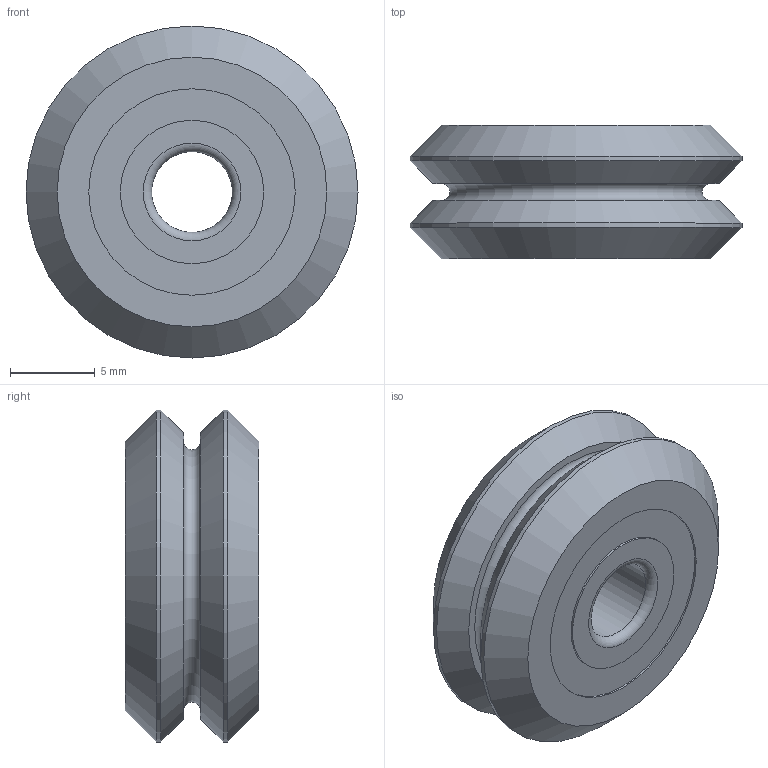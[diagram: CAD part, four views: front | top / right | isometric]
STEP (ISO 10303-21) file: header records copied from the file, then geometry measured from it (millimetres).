
FILE_DESCRIPTION(('STEP AP203'),'1');
FILE_NAME('W1SSX.stp','2020-09-30T01:57:14',(' '),(' '),'Spatial InterOp 3D',' ',' ');
FILE_SCHEMA(('CONFIG_CONTROL_DESIGN'));
Length unit declared in the file: millimetre
Products named in the file (1): W1SSX
Bounding box: 19.58 x 7.87 x 19.58 mm (x, y, z)
Volume: 1792.9 mm3; surface area: 1153.7 mm2
Topology: 1 solids, 1 shells, 22 faces, 36 edges, 22 vertices
Faces by surface type: plane 8, cylinder 7, cone 4, torus 3
Full cylindrical faces by diameter (mm): 4.76 x1, 8.458 x2, 12.179 x2, 19.58 x2
Entity records: 510 total; most frequent: DIRECTION 90, CARTESIAN_POINT 67, AXIS2_PLACEMENT_3D 45, EDGE_LOOP 44, ORIENTED_EDGE 44, FACE_OUTER_BOUND 32, ADVANCED_FACE 22, EDGE_CURVE 22
